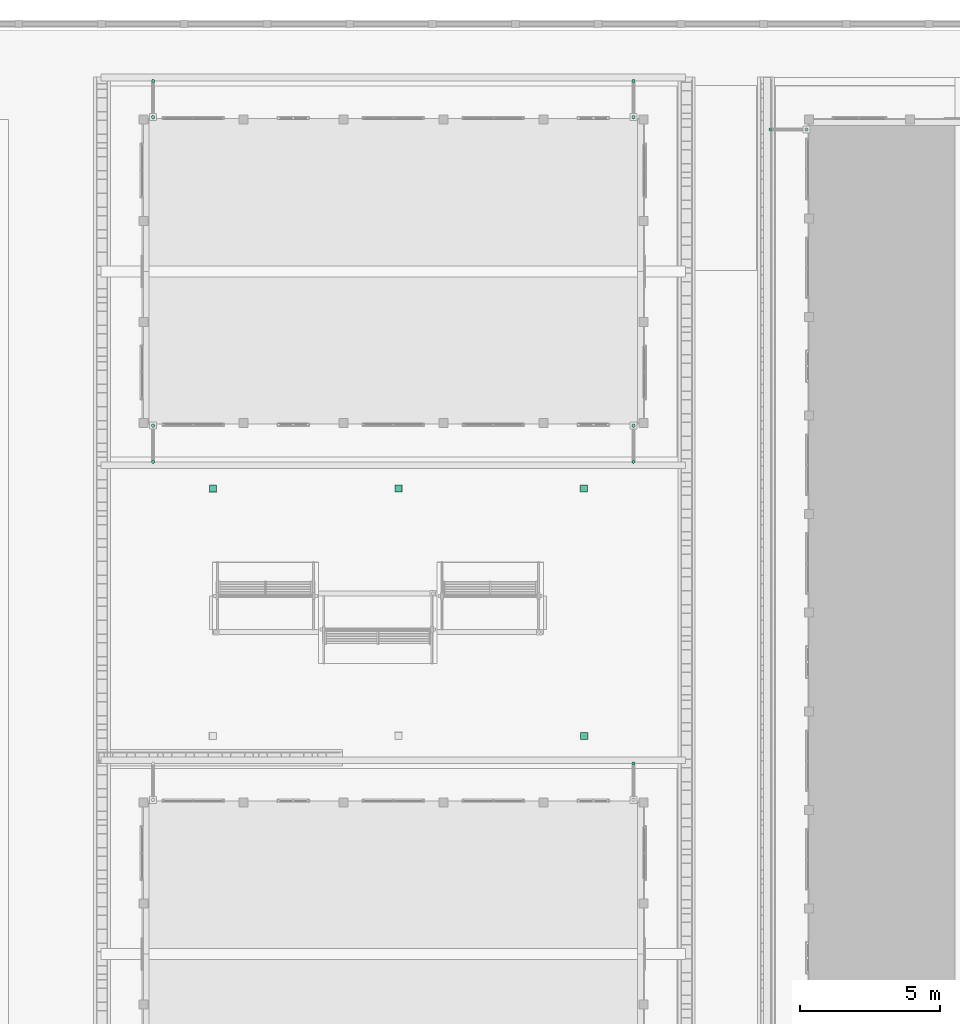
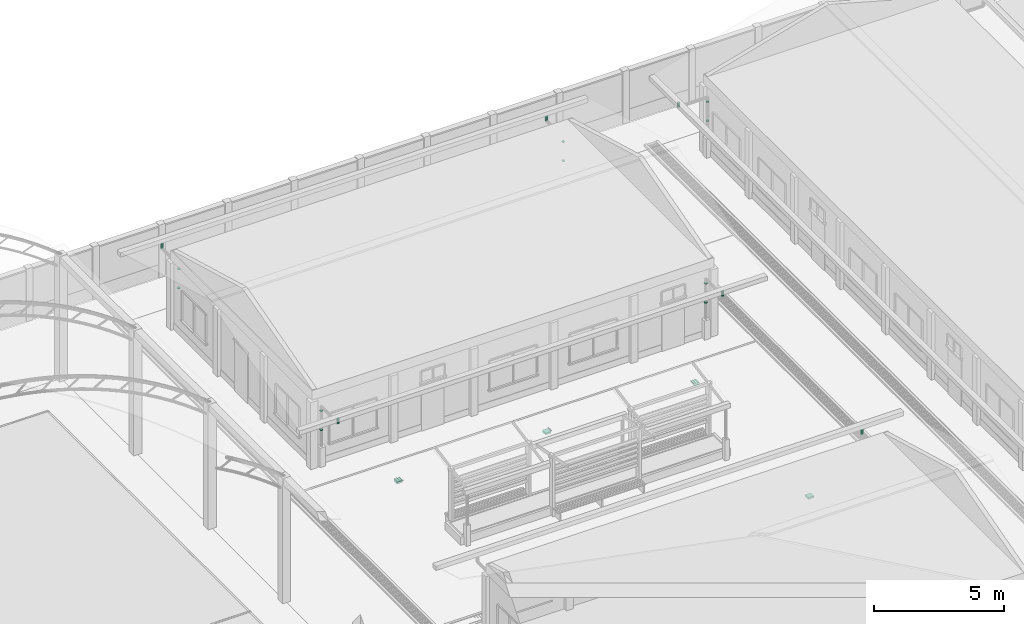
# One storey, part 120 of 151: 16 flow segments, 4 flow terminals.
"""IFC2X3 building model written with IfcOpenShell, lengths in metres."""

from ifc_helpers import new_model, si_unit, origin, origin_with_axes, place, context, subcontext, project, spatial, faceted_brep, element, save


model = new_model("IFC2X3")

# Units and contexts
model_context = context("Model", 3, precision=1e-05, world=origin_with_axes())
body_context = subcontext(model_context, "Body", "Model", "MODEL_VIEW")
ifc_project = project(units=[si_unit("LENGTHUNIT", "METRE"), si_unit("AREAUNIT", "SQUARE_METRE"), si_unit("VOLUMEUNIT", "CUBIC_METRE"), si_unit("PLANEANGLEUNIT", "RADIAN")], contexts=[model_context])

# Site, building, storey
site_placement = place(None, origin_with_axes())
site = spatial("IfcSite", under=ifc_project, at=site_placement, Name="Predio Los Mangos - Morales, San Martín", CompositionType="ELEMENT")
building_placement = place(site_placement, origin())
building = spatial("IfcBuilding", under=site, at=building_placement, Name="Hogar de Refugio Temporal", CompositionType="ELEMENT")
storey_placement = place(building_placement, origin())
storey = spatial("IfcBuildingStorey", under=building, at=storey_placement, Name="NIVEL 1 (NPT +0.00)", CompositionType="ELEMENT", Elevation=0.0)

# Flow segments
flow_segment_1_placement = place(storey_placement, origin())
element("IfcFlowSegment", 1, at=flow_segment_1_placement, inside=storey, Name="montante_boquilla", ObjectType="Montante PVC 4\"", context=body_context, shape_type="Brep", body=[
    faceted_brep([(49.45, 104.935, 3.13), (49.45, 104.935, 2.91), (49.4225, 104.9276, 2.91), (49.4225, 104.9276, 3.13), (49.4024, 104.9075, 2.91), (49.4024, 104.9075, 3.13), (49.395, 104.88, 2.91), (49.395, 104.88, 3.13), (49.4024, 104.8525, 2.91), (49.4024, 104.8525, 3.13), (49.4225, 104.8324, 2.91), (49.4225, 104.8324, 3.13), (49.45, 104.825, 2.91), (49.45, 104.825, 3.13), (49.4775, 104.8324, 2.91), (49.4775, 104.8324, 3.13), (49.4976, 104.8525, 2.91), (49.4976, 104.8525, 3.13), (49.505, 104.88, 2.91), (49.505, 104.88, 3.13), (49.4976, 104.9075, 2.91), (49.4976, 104.9075, 3.13), (49.4775, 104.9276, 2.91), (49.4775, 104.9276, 3.13)], [[[0, 1, 2, 3]], [[3, 2, 4, 5]], [[5, 4, 6, 7]], [[7, 6, 8, 9]], [[9, 8, 10, 11]], [[11, 10, 12, 13]], [[13, 12, 14, 15]], [[15, 14, 16, 17]], [[17, 16, 18, 19]], [[19, 18, 20, 21]], [[2, 1, 22, 20, 18, 16, 14, 12, 10, 8, 6, 4]], [[21, 20, 22, 23]], [[23, 22, 1, 0]], [[0, 3, 5, 7, 9, 11, 13, 15, 17, 19, 21, 23]]]),
])
flow_segment_2_placement = place(storey_placement, origin())
element("IfcFlowSegment", 2, at=flow_segment_2_placement, inside=storey, Name="montante_boquilla", ObjectType="Montante PVC 4\"", context=body_context, shape_type="Brep", body=[
    faceted_brep([(32.35, 115.675, 3.13), (32.35, 115.675, 2.91), (32.3225, 115.6676, 2.91), (32.3225, 115.6676, 3.13), (32.3024, 115.6475, 2.91), (32.3024, 115.6475, 3.13), (32.295, 115.62, 2.91), (32.295, 115.62, 3.13), (32.3024, 115.5925, 2.91), (32.3024, 115.5925, 3.13), (32.3225, 115.5724, 2.91), (32.3225, 115.5724, 3.13), (32.35, 115.565, 2.91), (32.35, 115.565, 3.13), (32.3775, 115.5724, 2.91), (32.3775, 115.5724, 3.13), (32.3976, 115.5925, 2.91), (32.3976, 115.5925, 3.13), (32.405, 115.62, 2.91), (32.405, 115.62, 3.13), (32.3976, 115.6475, 2.91), (32.3976, 115.6475, 3.13), (32.3775, 115.6676, 2.91), (32.3775, 115.6676, 3.13)], [[[0, 1, 2, 3]], [[3, 2, 4, 5]], [[5, 4, 6, 7]], [[7, 6, 8, 9]], [[9, 8, 10, 11]], [[11, 10, 12, 13]], [[13, 12, 14, 15]], [[15, 14, 16, 17]], [[17, 16, 18, 19]], [[19, 18, 20, 21]], [[2, 1, 22, 20, 18, 16, 14, 12, 10, 8, 6, 4]], [[21, 20, 22, 23]], [[23, 22, 1, 0]], [[0, 3, 5, 7, 9, 11, 13, 15, 17, 19, 21, 23]]]),
])
flow_segment_3_placement = place(storey_placement, origin())
element("IfcFlowSegment", 3, at=flow_segment_3_placement, inside=storey, Name="montante_abrazadera", ObjectType="Montante PVC 4\"", context=body_context, shape_type="Brep", body=[
    faceted_brep([(32.35, 116.848, 1.8), (32.35, 116.848, 1.84), (32.319, 116.8563, 1.84), (32.319, 116.8563, 1.8), (32.2963, 116.879, 1.84), (32.2963, 116.879, 1.8), (32.288, 116.91, 1.84), (32.288, 116.91, 1.8), (32.2963, 116.941, 1.84), (32.2963, 116.941, 1.8), (32.319, 116.9637, 1.84), (32.319, 116.9637, 1.8), (32.35, 116.972, 1.84), (32.35, 116.972, 1.8), (32.381, 116.9637, 1.84), (32.381, 116.9637, 1.8), (32.4037, 116.941, 1.84), (32.4037, 116.941, 1.8), (32.412, 116.91, 1.84), (32.412, 116.91, 1.8), (32.4037, 116.879, 1.84), (32.4037, 116.879, 1.8), (32.381, 116.8563, 1.84), (32.381, 116.8563, 1.8)], [[[0, 1, 2, 3]], [[3, 2, 4, 5]], [[5, 4, 6, 7]], [[7, 6, 8, 9]], [[9, 8, 10, 11]], [[11, 10, 12, 13]], [[13, 12, 14, 15]], [[15, 14, 16, 17]], [[17, 16, 18, 19]], [[19, 18, 20, 21]], [[2, 1, 22, 20, 18, 16, 14, 12, 10, 8, 6, 4]], [[21, 20, 22, 23]], [[23, 22, 1, 0]], [[0, 3, 5, 7, 9, 11, 13, 15, 17, 19, 21, 23]]]),
])
flow_segment_4_placement = place(storey_placement, origin())
element("IfcFlowSegment", 4, at=flow_segment_4_placement, inside=storey, Name="montante_abrazadera", ObjectType="Montante PVC 4\"", context=body_context, shape_type="Brep", body=[
    faceted_brep([(32.35, 116.848, 2.7), (32.35, 116.848, 2.74), (32.319, 116.8563, 2.74), (32.319, 116.8563, 2.7), (32.2963, 116.879, 2.74), (32.2963, 116.879, 2.7), (32.288, 116.91, 2.74), (32.288, 116.91, 2.7), (32.2963, 116.941, 2.74), (32.2963, 116.941, 2.7), (32.319, 116.9637, 2.74), (32.319, 116.9637, 2.7), (32.35, 116.972, 2.74), (32.35, 116.972, 2.7), (32.381, 116.9637, 2.74), (32.381, 116.9637, 2.7), (32.4037, 116.941, 2.74), (32.4037, 116.941, 2.7), (32.412, 116.91, 2.74), (32.412, 116.91, 2.7), (32.4037, 116.879, 2.74), (32.4037, 116.879, 2.7), (32.381, 116.8563, 2.74), (32.381, 116.8563, 2.7)], [[[0, 1, 2, 3]], [[3, 2, 4, 5]], [[5, 4, 6, 7]], [[7, 6, 8, 9]], [[9, 8, 10, 11]], [[11, 10, 12, 13]], [[13, 12, 14, 15]], [[15, 14, 16, 17]], [[17, 16, 18, 19]], [[19, 18, 20, 21]], [[2, 1, 22, 20, 18, 16, 14, 12, 10, 8, 6, 4]], [[21, 20, 22, 23]], [[23, 22, 1, 0]], [[0, 3, 5, 7, 9, 11, 13, 15, 17, 19, 21, 23]]]),
])
flow_segment_5_placement = place(storey_placement, origin())
element("IfcFlowSegment", 5, at=flow_segment_5_placement, inside=storey, Name="montante_boquilla", ObjectType="Montante PVC 4\"", context=body_context, shape_type="Brep", body=[
    faceted_brep([(49.45, 115.675, 3.13), (49.45, 115.675, 2.91), (49.4225, 115.6676, 2.91), (49.4225, 115.6676, 3.13), (49.4024, 115.6475, 2.91), (49.4024, 115.6475, 3.13), (49.395, 115.62, 2.91), (49.395, 115.62, 3.13), (49.4024, 115.5925, 2.91), (49.4024, 115.5925, 3.13), (49.4225, 115.5724, 2.91), (49.4225, 115.5724, 3.13), (49.45, 115.565, 2.91), (49.45, 115.565, 3.13), (49.4775, 115.5724, 2.91), (49.4775, 115.5724, 3.13), (49.4976, 115.5925, 2.91), (49.4976, 115.5925, 3.13), (49.505, 115.62, 2.91), (49.505, 115.62, 3.13), (49.4976, 115.6475, 2.91), (49.4976, 115.6475, 3.13), (49.4775, 115.6676, 2.91), (49.4775, 115.6676, 3.13)], [[[0, 1, 2, 3]], [[3, 2, 4, 5]], [[5, 4, 6, 7]], [[7, 6, 8, 9]], [[9, 8, 10, 11]], [[11, 10, 12, 13]], [[13, 12, 14, 15]], [[15, 14, 16, 17]], [[17, 16, 18, 19]], [[19, 18, 20, 21]], [[2, 1, 22, 20, 18, 16, 14, 12, 10, 8, 6, 4]], [[21, 20, 22, 23]], [[23, 22, 1, 0]], [[0, 3, 5, 7, 9, 11, 13, 15, 17, 19, 21, 23]]]),
])
flow_segment_6_placement = place(storey_placement, origin())
element("IfcFlowSegment", 6, at=flow_segment_6_placement, inside=storey, Name="montante_abrazadera", ObjectType="Montante PVC 4\"", context=body_context, shape_type="Brep", body=[
    faceted_brep([(49.45, 116.848, 1.8), (49.45, 116.848, 1.84), (49.419, 116.8563, 1.84), (49.419, 116.8563, 1.8), (49.3963, 116.879, 1.84), (49.3963, 116.879, 1.8), (49.388, 116.91, 1.84), (49.388, 116.91, 1.8), (49.3963, 116.941, 1.84), (49.3963, 116.941, 1.8), (49.419, 116.9637, 1.84), (49.419, 116.9637, 1.8), (49.45, 116.972, 1.84), (49.45, 116.972, 1.8), (49.481, 116.9637, 1.84), (49.481, 116.9637, 1.8), (49.5037, 116.941, 1.84), (49.5037, 116.941, 1.8), (49.512, 116.91, 1.84), (49.512, 116.91, 1.8), (49.5037, 116.879, 1.84), (49.5037, 116.879, 1.8), (49.481, 116.8563, 1.84), (49.481, 116.8563, 1.8)], [[[0, 1, 2, 3]], [[3, 2, 4, 5]], [[5, 4, 6, 7]], [[7, 6, 8, 9]], [[9, 8, 10, 11]], [[11, 10, 12, 13]], [[13, 12, 14, 15]], [[15, 14, 16, 17]], [[17, 16, 18, 19]], [[19, 18, 20, 21]], [[2, 1, 22, 20, 18, 16, 14, 12, 10, 8, 6, 4]], [[21, 20, 22, 23]], [[23, 22, 1, 0]], [[0, 3, 5, 7, 9, 11, 13, 15, 17, 19, 21, 23]]]),
])
flow_segment_7_placement = place(storey_placement, origin())
element("IfcFlowSegment", 7, at=flow_segment_7_placement, inside=storey, Name="montante_abrazadera", ObjectType="Montante PVC 4\"", context=body_context, shape_type="Brep", body=[
    faceted_brep([(49.45, 116.848, 2.7), (49.45, 116.848, 2.74), (49.419, 116.8563, 2.74), (49.419, 116.8563, 2.7), (49.3963, 116.879, 2.74), (49.3963, 116.879, 2.7), (49.388, 116.91, 2.74), (49.388, 116.91, 2.7), (49.3963, 116.941, 2.74), (49.3963, 116.941, 2.7), (49.419, 116.9637, 2.74), (49.419, 116.9637, 2.7), (49.45, 116.972, 2.74), (49.45, 116.972, 2.7), (49.481, 116.9637, 2.74), (49.481, 116.9637, 2.7), (49.5037, 116.941, 2.74), (49.5037, 116.941, 2.7), (49.512, 116.91, 2.74), (49.512, 116.91, 2.7), (49.5037, 116.879, 2.74), (49.5037, 116.879, 2.7), (49.481, 116.8563, 2.74), (49.481, 116.8563, 2.7)], [[[0, 1, 2, 3]], [[3, 2, 4, 5]], [[5, 4, 6, 7]], [[7, 6, 8, 9]], [[9, 8, 10, 11]], [[11, 10, 12, 13]], [[13, 12, 14, 15]], [[15, 14, 16, 17]], [[17, 16, 18, 19]], [[19, 18, 20, 21]], [[2, 1, 22, 20, 18, 16, 14, 12, 10, 8, 6, 4]], [[21, 20, 22, 23]], [[23, 22, 1, 0]], [[0, 3, 5, 7, 9, 11, 13, 15, 17, 19, 21, 23]]]),
])
flow_segment_8_placement = place(storey_placement, origin())
element("IfcFlowSegment", 8, at=flow_segment_8_placement, inside=storey, Name="montante_boquilla", ObjectType="Montante PVC 4\"", context=body_context, shape_type="Brep", body=[
    faceted_brep([(32.35, 129.235, 3.13), (32.35, 129.235, 2.91), (32.3225, 129.2276, 2.91), (32.3225, 129.2276, 3.13), (32.3024, 129.2075, 2.91), (32.3024, 129.2075, 3.13), (32.295, 129.18, 2.91), (32.295, 129.18, 3.13), (32.3024, 129.1525, 2.91), (32.3024, 129.1525, 3.13), (32.3225, 129.1324, 2.91), (32.3225, 129.1324, 3.13), (32.35, 129.125, 2.91), (32.35, 129.125, 3.13), (32.3775, 129.1324, 2.91), (32.3775, 129.1324, 3.13), (32.3976, 129.1525, 2.91), (32.3976, 129.1525, 3.13), (32.405, 129.18, 2.91), (32.405, 129.18, 3.13), (32.3976, 129.2075, 2.91), (32.3976, 129.2075, 3.13), (32.3775, 129.2276, 2.91), (32.3775, 129.2276, 3.13)], [[[0, 1, 2, 3]], [[3, 2, 4, 5]], [[5, 4, 6, 7]], [[7, 6, 8, 9]], [[9, 8, 10, 11]], [[11, 10, 12, 13]], [[13, 12, 14, 15]], [[15, 14, 16, 17]], [[17, 16, 18, 19]], [[19, 18, 20, 21]], [[2, 1, 22, 20, 18, 16, 14, 12, 10, 8, 6, 4]], [[21, 20, 22, 23]], [[23, 22, 1, 0]], [[0, 3, 5, 7, 9, 11, 13, 15, 17, 19, 21, 23]]]),
])
flow_segment_9_placement = place(storey_placement, origin())
element("IfcFlowSegment", 9, at=flow_segment_9_placement, inside=storey, Name="montante_abrazadera", ObjectType="Montante PVC 4\"", context=body_context, shape_type="Brep", body=[
    faceted_brep([(32.35, 127.828, 1.8), (32.35, 127.828, 1.84), (32.319, 127.8363, 1.84), (32.319, 127.8363, 1.8), (32.2963, 127.859, 1.84), (32.2963, 127.859, 1.8), (32.288, 127.89, 1.84), (32.288, 127.89, 1.8), (32.2963, 127.921, 1.84), (32.2963, 127.921, 1.8), (32.319, 127.9437, 1.84), (32.319, 127.9437, 1.8), (32.35, 127.952, 1.84), (32.35, 127.952, 1.8), (32.381, 127.9437, 1.84), (32.381, 127.9437, 1.8), (32.4037, 127.921, 1.84), (32.4037, 127.921, 1.8), (32.412, 127.89, 1.84), (32.412, 127.89, 1.8), (32.4037, 127.859, 1.84), (32.4037, 127.859, 1.8), (32.381, 127.8363, 1.84), (32.381, 127.8363, 1.8)], [[[0, 1, 2, 3]], [[3, 2, 4, 5]], [[5, 4, 6, 7]], [[7, 6, 8, 9]], [[9, 8, 10, 11]], [[11, 10, 12, 13]], [[13, 12, 14, 15]], [[15, 14, 16, 17]], [[17, 16, 18, 19]], [[19, 18, 20, 21]], [[2, 1, 22, 20, 18, 16, 14, 12, 10, 8, 6, 4]], [[21, 20, 22, 23]], [[23, 22, 1, 0]], [[0, 3, 5, 7, 9, 11, 13, 15, 17, 19, 21, 23]]]),
])
flow_segment_10_placement = place(storey_placement, origin())
element("IfcFlowSegment", 10, at=flow_segment_10_placement, inside=storey, Name="montante_abrazadera", ObjectType="Montante PVC 4\"", context=body_context, shape_type="Brep", body=[
    faceted_brep([(32.35, 127.828, 2.7), (32.35, 127.828, 2.74), (32.319, 127.8363, 2.74), (32.319, 127.8363, 2.7), (32.2963, 127.859, 2.74), (32.2963, 127.859, 2.7), (32.288, 127.89, 2.74), (32.288, 127.89, 2.7), (32.2963, 127.921, 2.74), (32.2963, 127.921, 2.7), (32.319, 127.9437, 2.74), (32.319, 127.9437, 2.7), (32.35, 127.952, 2.74), (32.35, 127.952, 2.7), (32.381, 127.9437, 2.74), (32.381, 127.9437, 2.7), (32.4037, 127.921, 2.74), (32.4037, 127.921, 2.7), (32.412, 127.89, 2.74), (32.412, 127.89, 2.7), (32.4037, 127.859, 2.74), (32.4037, 127.859, 2.7), (32.381, 127.8363, 2.74), (32.381, 127.8363, 2.7)], [[[0, 1, 2, 3]], [[3, 2, 4, 5]], [[5, 4, 6, 7]], [[7, 6, 8, 9]], [[9, 8, 10, 11]], [[11, 10, 12, 13]], [[13, 12, 14, 15]], [[15, 14, 16, 17]], [[17, 16, 18, 19]], [[19, 18, 20, 21]], [[2, 1, 22, 20, 18, 16, 14, 12, 10, 8, 6, 4]], [[21, 20, 22, 23]], [[23, 22, 1, 0]], [[0, 3, 5, 7, 9, 11, 13, 15, 17, 19, 21, 23]]]),
])
flow_segment_11_placement = place(storey_placement, origin())
element("IfcFlowSegment", 11, at=flow_segment_11_placement, inside=storey, Name="montante_boquilla", ObjectType="Montante PVC 4\"", context=body_context, shape_type="Brep", body=[
    faceted_brep([(49.45, 129.235, 3.13), (49.45, 129.235, 2.91), (49.4225, 129.2276, 2.91), (49.4225, 129.2276, 3.13), (49.4024, 129.2075, 2.91), (49.4024, 129.2075, 3.13), (49.395, 129.18, 2.91), (49.395, 129.18, 3.13), (49.4024, 129.1525, 2.91), (49.4024, 129.1525, 3.13), (49.4225, 129.1324, 2.91), (49.4225, 129.1324, 3.13), (49.45, 129.125, 2.91), (49.45, 129.125, 3.13), (49.4775, 129.1324, 2.91), (49.4775, 129.1324, 3.13), (49.4976, 129.1525, 2.91), (49.4976, 129.1525, 3.13), (49.505, 129.18, 2.91), (49.505, 129.18, 3.13), (49.4976, 129.2075, 2.91), (49.4976, 129.2075, 3.13), (49.4775, 129.2276, 2.91), (49.4775, 129.2276, 3.13)], [[[0, 1, 2, 3]], [[3, 2, 4, 5]], [[5, 4, 6, 7]], [[7, 6, 8, 9]], [[9, 8, 10, 11]], [[11, 10, 12, 13]], [[13, 12, 14, 15]], [[15, 14, 16, 17]], [[17, 16, 18, 19]], [[19, 18, 20, 21]], [[2, 1, 22, 20, 18, 16, 14, 12, 10, 8, 6, 4]], [[21, 20, 22, 23]], [[23, 22, 1, 0]], [[0, 3, 5, 7, 9, 11, 13, 15, 17, 19, 21, 23]]]),
])
flow_segment_12_placement = place(storey_placement, origin())
element("IfcFlowSegment", 12, at=flow_segment_12_placement, inside=storey, Name="montante_abrazadera", ObjectType="Montante PVC 4\"", context=body_context, shape_type="Brep", body=[
    faceted_brep([(49.45, 127.828, 1.8), (49.45, 127.828, 1.84), (49.419, 127.8363, 1.84), (49.419, 127.8363, 1.8), (49.3963, 127.859, 1.84), (49.3963, 127.859, 1.8), (49.388, 127.89, 1.84), (49.388, 127.89, 1.8), (49.3963, 127.921, 1.84), (49.3963, 127.921, 1.8), (49.419, 127.9437, 1.84), (49.419, 127.9437, 1.8), (49.45, 127.952, 1.84), (49.45, 127.952, 1.8), (49.481, 127.9437, 1.84), (49.481, 127.9437, 1.8), (49.5037, 127.921, 1.84), (49.5037, 127.921, 1.8), (49.512, 127.89, 1.84), (49.512, 127.89, 1.8), (49.5037, 127.859, 1.84), (49.5037, 127.859, 1.8), (49.481, 127.8363, 1.84), (49.481, 127.8363, 1.8)], [[[0, 1, 2, 3]], [[3, 2, 4, 5]], [[5, 4, 6, 7]], [[7, 6, 8, 9]], [[9, 8, 10, 11]], [[11, 10, 12, 13]], [[13, 12, 14, 15]], [[15, 14, 16, 17]], [[17, 16, 18, 19]], [[19, 18, 20, 21]], [[2, 1, 22, 20, 18, 16, 14, 12, 10, 8, 6, 4]], [[21, 20, 22, 23]], [[23, 22, 1, 0]], [[0, 3, 5, 7, 9, 11, 13, 15, 17, 19, 21, 23]]]),
])
flow_segment_13_placement = place(storey_placement, origin())
element("IfcFlowSegment", 13, at=flow_segment_13_placement, inside=storey, Name="montante_abrazadera", ObjectType="Montante PVC 4\"", context=body_context, shape_type="Brep", body=[
    faceted_brep([(49.45, 127.828, 2.7), (49.45, 127.828, 2.74), (49.419, 127.8363, 2.74), (49.419, 127.8363, 2.7), (49.3963, 127.859, 2.74), (49.3963, 127.859, 2.7), (49.388, 127.89, 2.74), (49.388, 127.89, 2.7), (49.3963, 127.921, 2.74), (49.3963, 127.921, 2.7), (49.419, 127.9437, 2.74), (49.419, 127.9437, 2.7), (49.45, 127.952, 2.74), (49.45, 127.952, 2.7), (49.481, 127.9437, 2.74), (49.481, 127.9437, 2.7), (49.5037, 127.921, 2.74), (49.5037, 127.921, 2.7), (49.512, 127.89, 2.74), (49.512, 127.89, 2.7), (49.5037, 127.859, 2.74), (49.5037, 127.859, 2.7), (49.481, 127.8363, 2.74), (49.481, 127.8363, 2.7)], [[[0, 1, 2, 3]], [[3, 2, 4, 5]], [[5, 4, 6, 7]], [[7, 6, 8, 9]], [[9, 8, 10, 11]], [[11, 10, 12, 13]], [[13, 12, 14, 15]], [[15, 14, 16, 17]], [[17, 16, 18, 19]], [[19, 18, 20, 21]], [[2, 1, 22, 20, 18, 16, 14, 12, 10, 8, 6, 4]], [[21, 20, 22, 23]], [[23, 22, 1, 0]], [[0, 3, 5, 7, 9, 11, 13, 15, 17, 19, 21, 23]]]),
])
flow_segment_14_placement = place(storey_placement, origin())
element("IfcFlowSegment", 14, at=flow_segment_14_placement, inside=storey, Name="montante_boquilla", ObjectType="Montante PVC 4\"", context=body_context, shape_type="Brep", body=[
    faceted_brep([(54.32, 127.505, 3.13), (54.32, 127.505, 2.91), (54.2925, 127.4976, 2.91), (54.2925, 127.4976, 3.13), (54.2724, 127.4775, 2.91), (54.2724, 127.4775, 3.13), (54.265, 127.45, 2.91), (54.265, 127.45, 3.13), (54.2724, 127.4225, 2.91), (54.2724, 127.4225, 3.13), (54.2925, 127.4024, 2.91), (54.2925, 127.4024, 3.13), (54.32, 127.395, 2.91), (54.32, 127.395, 3.13), (54.3475, 127.4024, 2.91), (54.3475, 127.4024, 3.13), (54.3676, 127.4225, 2.91), (54.3676, 127.4225, 3.13), (54.375, 127.45, 2.91), (54.375, 127.45, 3.13), (54.3676, 127.4775, 2.91), (54.3676, 127.4775, 3.13), (54.3475, 127.4976, 2.91), (54.3475, 127.4976, 3.13)], [[[0, 1, 2, 3]], [[3, 2, 4, 5]], [[5, 4, 6, 7]], [[7, 6, 8, 9]], [[9, 8, 10, 11]], [[11, 10, 12, 13]], [[13, 12, 14, 15]], [[15, 14, 16, 17]], [[17, 16, 18, 19]], [[19, 18, 20, 21]], [[2, 1, 22, 20, 18, 16, 14, 12, 10, 8, 6, 4]], [[21, 20, 22, 23]], [[23, 22, 1, 0]], [[0, 3, 5, 7, 9, 11, 13, 15, 17, 19, 21, 23]]]),
])
flow_segment_15_placement = place(storey_placement, origin())
element("IfcFlowSegment", 15, at=flow_segment_15_placement, inside=storey, Name="montante_abrazadera", ObjectType="Montante PVC 4\"", context=body_context, shape_type="Brep", body=[
    faceted_brep([(55.61, 127.388, 1.8), (55.61, 127.388, 1.84), (55.579, 127.3963, 1.84), (55.579, 127.3963, 1.8), (55.5563, 127.419, 1.84), (55.5563, 127.419, 1.8), (55.548, 127.45, 1.84), (55.548, 127.45, 1.8), (55.5563, 127.481, 1.84), (55.5563, 127.481, 1.8), (55.579, 127.5037, 1.84), (55.579, 127.5037, 1.8), (55.61, 127.512, 1.84), (55.61, 127.512, 1.8), (55.641, 127.5037, 1.84), (55.641, 127.5037, 1.8), (55.6637, 127.481, 1.84), (55.6637, 127.481, 1.8), (55.672, 127.45, 1.84), (55.672, 127.45, 1.8), (55.6637, 127.419, 1.84), (55.6637, 127.419, 1.8), (55.641, 127.3963, 1.84), (55.641, 127.3963, 1.8)], [[[0, 1, 2, 3]], [[3, 2, 4, 5]], [[5, 4, 6, 7]], [[7, 6, 8, 9]], [[9, 8, 10, 11]], [[11, 10, 12, 13]], [[13, 12, 14, 15]], [[15, 14, 16, 17]], [[17, 16, 18, 19]], [[19, 18, 20, 21]], [[2, 1, 22, 20, 18, 16, 14, 12, 10, 8, 6, 4]], [[21, 20, 22, 23]], [[23, 22, 1, 0]], [[0, 3, 5, 7, 9, 11, 13, 15, 17, 19, 21, 23]]]),
])
flow_segment_16_placement = place(storey_placement, origin())
element("IfcFlowSegment", 16, at=flow_segment_16_placement, inside=storey, Name="montante_abrazadera", ObjectType="Montante PVC 4\"", context=body_context, shape_type="Brep", body=[
    faceted_brep([(55.61, 127.388, 2.7), (55.61, 127.388, 2.74), (55.579, 127.3963, 2.74), (55.579, 127.3963, 2.7), (55.5563, 127.419, 2.74), (55.5563, 127.419, 2.7), (55.548, 127.45, 2.74), (55.548, 127.45, 2.7), (55.5563, 127.481, 2.74), (55.5563, 127.481, 2.7), (55.579, 127.5037, 2.74), (55.579, 127.5037, 2.7), (55.61, 127.512, 2.74), (55.61, 127.512, 2.7), (55.641, 127.5037, 2.74), (55.641, 127.5037, 2.7), (55.6637, 127.481, 2.74), (55.6637, 127.481, 2.7), (55.672, 127.45, 2.74), (55.672, 127.45, 2.7), (55.6637, 127.419, 2.74), (55.6637, 127.419, 2.7), (55.641, 127.3963, 2.74), (55.641, 127.3963, 2.7)], [[[0, 1, 2, 3]], [[3, 2, 4, 5]], [[5, 4, 6, 7]], [[7, 6, 8, 9]], [[9, 8, 10, 11]], [[11, 10, 12, 13]], [[13, 12, 14, 15]], [[15, 14, 16, 17]], [[17, 16, 18, 19]], [[19, 18, 20, 21]], [[2, 1, 22, 20, 18, 16, 14, 12, 10, 8, 6, 4]], [[21, 20, 22, 23]], [[23, 22, 1, 0]], [[0, 3, 5, 7, 9, 11, 13, 15, 17, 19, 21, 23]]]),
])

# Flow terminals
flow_terminal_1_placement = place(storey_placement, origin())
element("IfcFlowTerminal", 17, at=flow_terminal_1_placement, inside=storey, Name="sumidero_fondo", ObjectType="Sumidero con rejilla", context=body_context, shape_type="Brep", body=[
    faceted_brep([(47.56, 105.732, -0.02), (47.56, 105.982, -0.02), (47.81, 105.982, -0.02), (47.81, 105.732, -0.02), (47.56, 105.732, 0.064), (47.81, 105.732, 0.064), (47.81, 105.982, 0.064), (47.56, 105.982, 0.064)], [[[0, 1, 2, 3]], [[4, 5, 6, 7]], [[0, 3, 5, 4]], [[3, 2, 6, 5]], [[2, 1, 7, 6]], [[1, 0, 4, 7]]]),
])
flow_terminal_2_placement = place(storey_placement, origin())
element("IfcFlowTerminal", 18, at=flow_terminal_2_placement, inside=storey, Name="sumidero_fondo", ObjectType="Sumidero con rejilla", context=body_context, shape_type="Brep", body=[
    faceted_brep([(34.36, 114.552, -0.02), (34.36, 114.802, -0.02), (34.61, 114.802, -0.02), (34.61, 114.552, -0.02), (34.36, 114.552, 0.064), (34.61, 114.552, 0.064), (34.61, 114.802, 0.064), (34.36, 114.802, 0.064)], [[[0, 1, 2, 3]], [[4, 5, 6, 7]], [[0, 3, 5, 4]], [[3, 2, 6, 5]], [[2, 1, 7, 6]], [[1, 0, 4, 7]]]),
])
flow_terminal_3_placement = place(storey_placement, origin())
element("IfcFlowTerminal", 19, at=flow_terminal_3_placement, inside=storey, Name="sumidero_fondo", ObjectType="Sumidero con rejilla", context=body_context, shape_type="Brep", body=[
    faceted_brep([(40.96, 114.552, -0.02), (40.96, 114.802, -0.02), (41.21, 114.802, -0.02), (41.21, 114.552, -0.02), (40.96, 114.552, 0.064), (41.21, 114.552, 0.064), (41.21, 114.802, 0.064), (40.96, 114.802, 0.064)], [[[0, 1, 2, 3]], [[4, 5, 6, 7]], [[0, 3, 5, 4]], [[3, 2, 6, 5]], [[2, 1, 7, 6]], [[1, 0, 4, 7]]]),
])
flow_terminal_4_placement = place(storey_placement, origin())
element("IfcFlowTerminal", 20, at=flow_terminal_4_placement, inside=storey, Name="sumidero_fondo", ObjectType="Sumidero con rejilla", context=body_context, shape_type="Brep", body=[
    faceted_brep([(47.56, 114.552, -0.02), (47.56, 114.802, -0.02), (47.81, 114.802, -0.02), (47.81, 114.552, -0.02), (47.56, 114.552, 0.064), (47.81, 114.552, 0.064), (47.81, 114.802, 0.064), (47.56, 114.802, 0.064)], [[[0, 1, 2, 3]], [[4, 5, 6, 7]], [[0, 3, 5, 4]], [[3, 2, 6, 5]], [[2, 1, 7, 6]], [[1, 0, 4, 7]]]),
])

save(model, "model.ifc")
